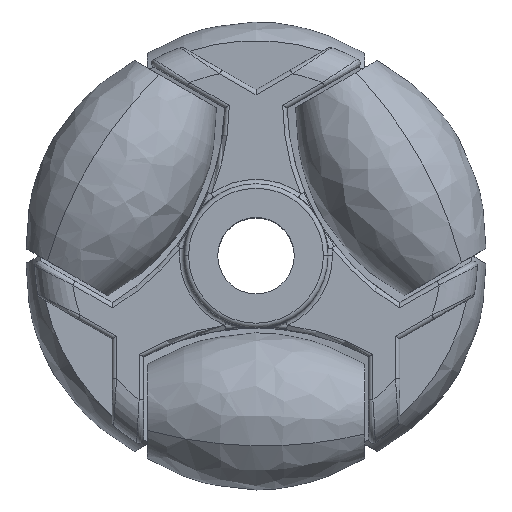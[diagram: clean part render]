
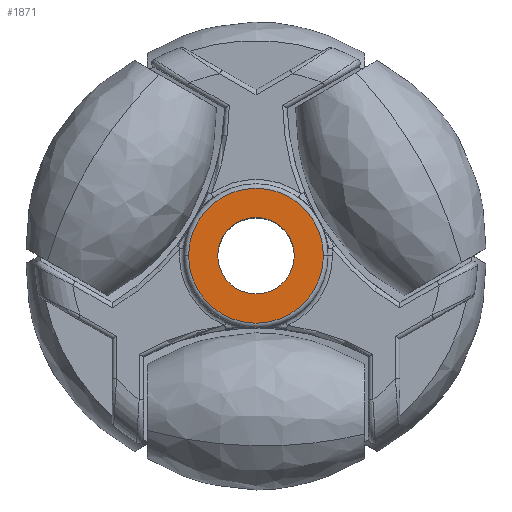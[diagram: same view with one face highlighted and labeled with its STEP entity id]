
A CAD part, top view. The second image highlights one B-rep face of the part: STEP entity #1871.
In plain terms, the highlighted planar face has unit normal (0, 0, 1).
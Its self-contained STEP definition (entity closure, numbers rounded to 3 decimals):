
#50 = EDGE_CURVE ( 'NONE', #564, #5811, #1272, .T. ) ;
#107 = DIRECTION ( 'NONE',  ( 0., 0., 1. ) ) ;
#163 = VERTEX_POINT ( 'NONE', #2158 ) ;
#564 = VERTEX_POINT ( 'NONE', #4102 ) ;
#784 = ORIENTED_EDGE ( 'NONE', *, *, #12678, .F. ) ;
#887 = EDGE_CURVE ( 'NONE', #5811, #564, #13358, .T. ) ;
#1108 = CARTESIAN_POINT ( 'NONE',  ( 0., -0.008, 34.004 ) ) ;
#1178 = EDGE_LOOP ( 'NONE', ( #7592, #784 ) ) ;
#1221 = CIRCLE ( 'NONE', #11132, 4.25 ) ;
#1272 = CIRCLE ( 'NONE', #12265, 7.5 ) ;
#1871 = ADVANCED_FACE ( 'NONE', ( #6130, #3088 ), #4034, .T. ) ;
#1877 = CARTESIAN_POINT ( 'NONE',  ( 0., -0.008, 34.004 ) ) ;
#2017 = ORIENTED_EDGE ( 'NONE', *, *, #50, .T. ) ;
#2158 = CARTESIAN_POINT ( 'NONE',  ( 4.25, -0.008, 34.004 ) ) ;
#2261 = DIRECTION ( 'NONE',  ( -1., 0., 0. ) ) ;
#3088 = FACE_BOUND ( 'NONE', #1178, .T. ) ;
#3216 = CARTESIAN_POINT ( 'NONE',  ( 0., -0.008, 34.004 ) ) ;
#3487 = DIRECTION ( 'NONE',  ( 0., 0., 1. ) ) ;
#3951 = DIRECTION ( 'NONE',  ( -1., 0., 0. ) ) ;
#4034 = PLANE ( 'NONE',  #11200 ) ;
#4102 = CARTESIAN_POINT ( 'NONE',  ( -7.5, -0.008, 34.004 ) ) ;
#4393 = CARTESIAN_POINT ( 'NONE',  ( 0., -0.008, 34.004 ) ) ;
#4868 = CIRCLE ( 'NONE', #9600, 4.25 ) ;
#5081 = EDGE_LOOP ( 'NONE', ( #2017, #8839 ) ) ;
#5811 = VERTEX_POINT ( 'NONE', #11633 ) ;
#6130 = FACE_OUTER_BOUND ( 'NONE', #5081, .T. ) ;
#6427 = DIRECTION ( 'NONE',  ( 0., 0., 1. ) ) ;
#7539 = AXIS2_PLACEMENT_3D ( 'NONE', #3216, #3487, #2261 ) ;
#7592 = ORIENTED_EDGE ( 'NONE', *, *, #8986, .F. ) ;
#8839 = ORIENTED_EDGE ( 'NONE', *, *, #887, .T. ) ;
#8986 = EDGE_CURVE ( 'NONE', #163, #13073, #4868, .T. ) ;
#9085 = DIRECTION ( 'NONE',  ( 0., 0., 1. ) ) ;
#9600 = AXIS2_PLACEMENT_3D ( 'NONE', #11227, #9085, #3951 ) ;
#9662 = DIRECTION ( 'NONE',  ( -1., 0., 0. ) ) ;
#9915 = CARTESIAN_POINT ( 'NONE',  ( -4.25, -0.008, 34.004 ) ) ;
#10407 = DIRECTION ( 'NONE',  ( 0., 0., 1. ) ) ;
#11132 = AXIS2_PLACEMENT_3D ( 'NONE', #4393, #6427, #9662 ) ;
#11200 = AXIS2_PLACEMENT_3D ( 'NONE', #1877, #107, #11239 ) ;
#11227 = CARTESIAN_POINT ( 'NONE',  ( 0., -0.008, 34.004 ) ) ;
#11239 = DIRECTION ( 'NONE',  ( -1., 0., 0. ) ) ;
#11481 = DIRECTION ( 'NONE',  ( -1., 0., 0. ) ) ;
#11633 = CARTESIAN_POINT ( 'NONE',  ( 7.5, -0.008, 34.004 ) ) ;
#12265 = AXIS2_PLACEMENT_3D ( 'NONE', #1108, #10407, #11481 ) ;
#12678 = EDGE_CURVE ( 'NONE', #13073, #163, #1221, .T. ) ;
#13073 = VERTEX_POINT ( 'NONE', #9915 ) ;
#13358 = CIRCLE ( 'NONE', #7539, 7.5 ) ;
